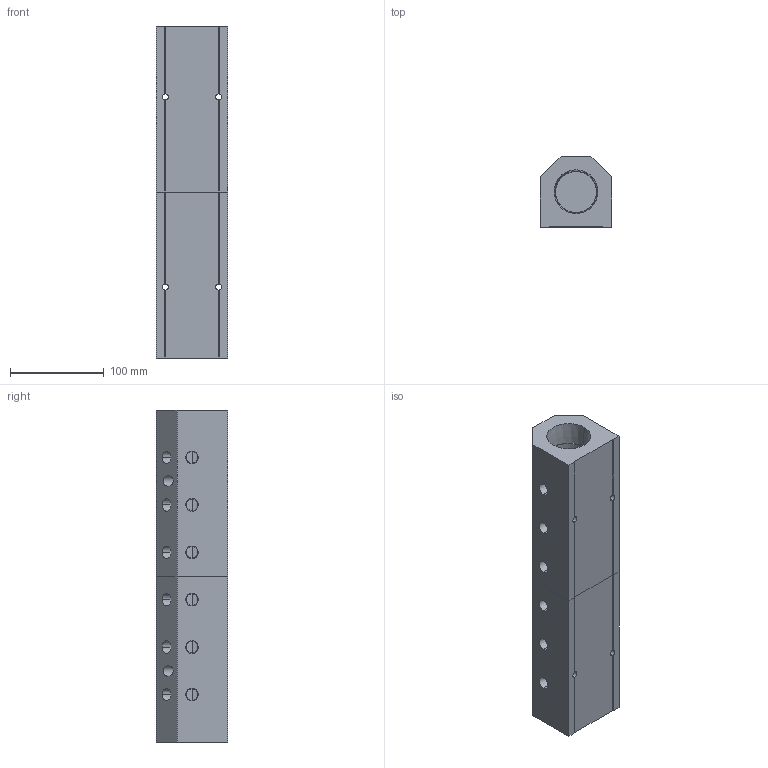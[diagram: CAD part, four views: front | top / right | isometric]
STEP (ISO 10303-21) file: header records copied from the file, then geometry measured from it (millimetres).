
FILE_DESCRIPTION (( 'STEP AP214' ), '1' );
FILE_NAME ('ALM6ABC-N4N24-355RB.step', '2022-02-07T07:52:09', ( '' ), ( '' ), 'SwSTEP 2.0', 'SolidWorks 2020', '' );
FILE_SCHEMA (( 'AUTOMOTIVE_DESIGN' ));
Length unit declared in the file: millimetre
Products named in the file (1): ALM6ABC-N4N24-355RB
Bounding box: 76.2 x 76.2 x 355 mm (x, y, z)
Volume: 1284487.4 mm3; surface area: 181909.7 mm2
Topology: 2 solids, 2 shells, 392 faces, 1045 edges, 690 vertices
Faces by surface type: plane 252, bspline 80, cone 40, cylinder 20
Entity records: 22268 total; most frequent: CARTESIAN_POINT 9264, ORIENTED_EDGE 2090, DIRECTION 1535, EDGE_CURVE 1045, LINE 757, VECTOR 757, VERTEX_POINT 690, EDGE_LOOP 469
